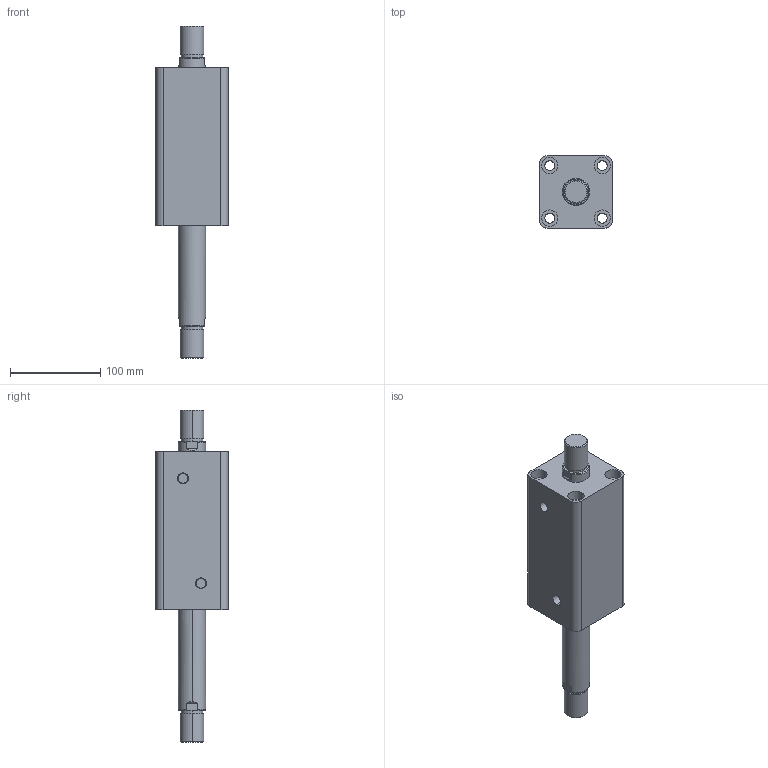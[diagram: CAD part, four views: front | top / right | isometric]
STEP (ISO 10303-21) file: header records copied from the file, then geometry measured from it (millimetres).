
FILE_DESCRIPTION (( 'STEP AP203' ), '1' );
FILE_NAME ('HTB-SW50-100W.STEP', '2019-10-07T09:26:49', ( '微软用户' ), ( '微软中国' ), 'SwSTEP 2.0', 'SolidWorks 2012', '' );
FILE_SCHEMA (( 'CONFIG_CONTROL_DESIGN' ));
Length unit declared in the file: millimetre
Products named in the file (3): HTB-SW50-100W; HTB-SW50-100W活塞杆; HTB-SW50-100掛极
Assembly tree (2 placements, depth 2):
  HTB-SW50-100W
    HTB-SW50-100掛极
    HTB-SW50-100W活塞杆
Bounding box: 80 x 80 x 367 mm (x, y, z)
Volume: 1024476.7 mm3; surface area: 156554.6 mm2
Topology: 2 solids, 2 shells, 108 faces, 240 edges, 156 vertices
Faces by surface type: cylinder 52, plane 36, torus 12, cone 8
Entity records: 3449 total; most frequent: CARTESIAN_POINT 629, DIRECTION 586, ORIENTED_EDGE 480, AXIS2_PLACEMENT_3D 249, EDGE_CURVE 240, VERTEX_POINT 156, EDGE_LOOP 138, CIRCLE 136
